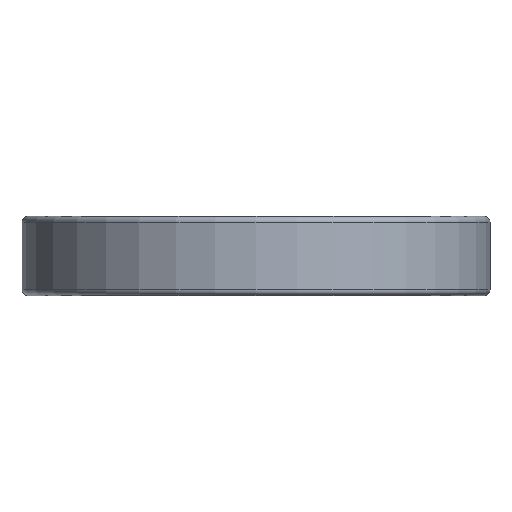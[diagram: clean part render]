
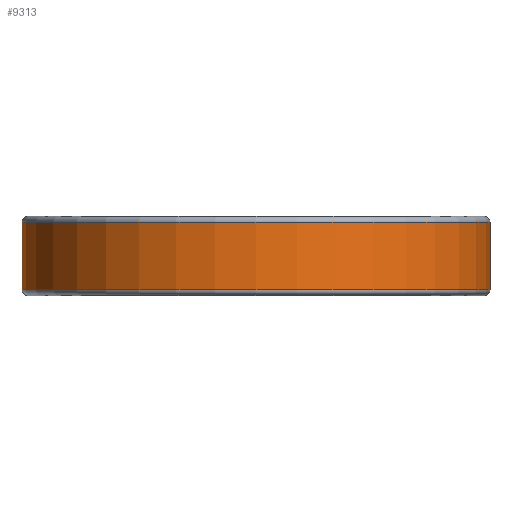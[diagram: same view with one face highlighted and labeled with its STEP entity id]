
A CAD part, front view. The second image highlights one B-rep face of the part: STEP entity #9313.
In plain terms, the highlighted cylindrical face has radius 11.812 mm (diameter 23.625 mm), a partial arc.
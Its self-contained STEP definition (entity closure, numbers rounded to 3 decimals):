
#1534 = DIRECTION ( 'NONE',  ( 0., 0., -1. ) ) ;
#1701 = CARTESIAN_POINT ( 'NONE',  ( -11.813, 0., 3.7 ) ) ;
#1952 = AXIS2_PLACEMENT_3D ( 'NONE', #8136, #22746, #5898 ) ;
#2738 = VERTEX_POINT ( 'NONE', #26024 ) ;
#4104 = CARTESIAN_POINT ( 'NONE',  ( 11.813, 0., 3.7 ) ) ;
#4133 = CARTESIAN_POINT ( 'NONE',  ( 0., 0., 3.7 ) ) ;
#4660 = CARTESIAN_POINT ( 'NONE',  ( -11.813, 0., 0.3 ) ) ;
#5898 = DIRECTION ( 'NONE',  ( -1., 0., 0. ) ) ;
#6198 = CYLINDRICAL_SURFACE ( 'NONE', #1952, 11.813 ) ;
#6594 = CARTESIAN_POINT ( 'NONE',  ( 0., 0., 0.3 ) ) ;
#6746 = DIRECTION ( 'NONE',  ( 1., 0., 0. ) ) ;
#8136 = CARTESIAN_POINT ( 'NONE',  ( 0., 0., 4. ) ) ;
#9009 = ORIENTED_EDGE ( 'NONE', *, *, #12769, .T. ) ;
#9313 = ADVANCED_FACE ( 'NONE', ( #27516 ), #6198, .T. ) ;
#12282 = EDGE_CURVE ( 'NONE', #18754, #19961, #24362, .T. ) ;
#12769 = EDGE_CURVE ( 'NONE', #19961, #17002, #23300, .T. ) ;
#13300 = AXIS2_PLACEMENT_3D ( 'NONE', #6594, #23586, #6746 ) ;
#13819 = DIRECTION ( 'NONE',  ( 0., 0., -1. ) ) ;
#15427 = ORIENTED_EDGE ( 'NONE', *, *, #19484, .T. ) ;
#17002 = VERTEX_POINT ( 'NONE', #4660 ) ;
#18066 = LINE ( 'NONE', #23457, #23201 ) ;
#18186 = ORIENTED_EDGE ( 'NONE', *, *, #12282, .T. ) ;
#18307 = ORIENTED_EDGE ( 'NONE', *, *, #28791, .F. ) ;
#18754 = VERTEX_POINT ( 'NONE', #4104 ) ;
#19484 = EDGE_CURVE ( 'NONE', #17002, #2738, #20407, .T. ) ;
#19961 = VERTEX_POINT ( 'NONE', #1701 ) ;
#20407 = CIRCLE ( 'NONE', #13300, 11.813 ) ;
#22746 = DIRECTION ( 'NONE',  ( 0., 0., -1. ) ) ;
#22846 = DIRECTION ( 'NONE',  ( 0., 0., -1. ) ) ;
#23201 = VECTOR ( 'NONE', #1534, 1000. ) ;
#23300 = LINE ( 'NONE', #25520, #30948 ) ;
#23457 = CARTESIAN_POINT ( 'NONE',  ( 11.813, 0., 4. ) ) ;
#23586 = DIRECTION ( 'NONE',  ( 0., 0., 1. ) ) ;
#24362 = CIRCLE ( 'NONE', #27914, 11.813 ) ;
#25520 = CARTESIAN_POINT ( 'NONE',  ( -11.813, 0., 4. ) ) ;
#25733 = DIRECTION ( 'NONE',  ( 1., 0., 0. ) ) ;
#26024 = CARTESIAN_POINT ( 'NONE',  ( 11.813, 0., 0.3 ) ) ;
#27516 = FACE_OUTER_BOUND ( 'NONE', #28927, .T. ) ;
#27914 = AXIS2_PLACEMENT_3D ( 'NONE', #4133, #13819, #25733 ) ;
#28791 = EDGE_CURVE ( 'NONE', #18754, #2738, #18066, .T. ) ;
#28927 = EDGE_LOOP ( 'NONE', ( #18307, #18186, #9009, #15427 ) ) ;
#30948 = VECTOR ( 'NONE', #22846, 1000. ) ;
